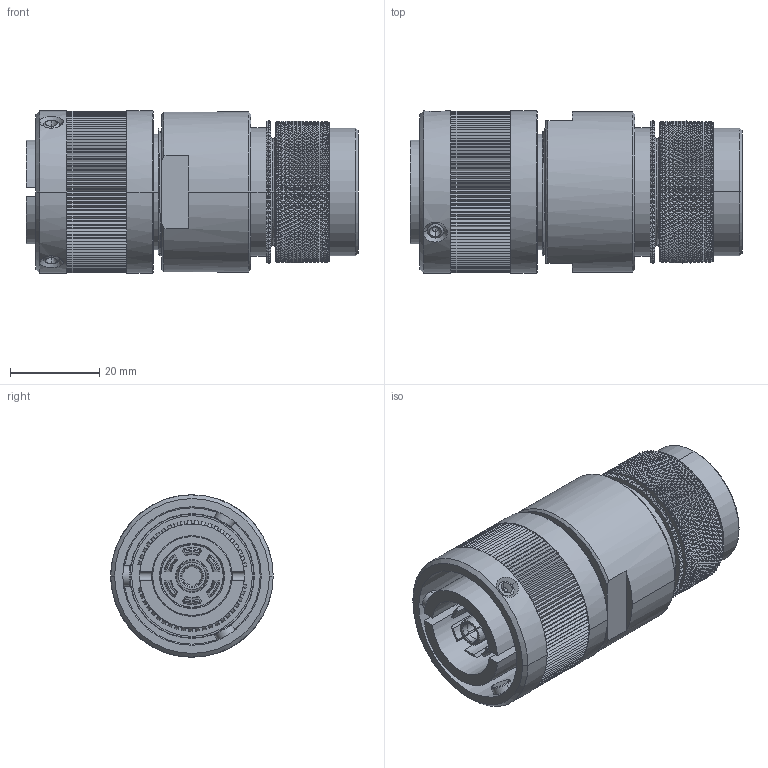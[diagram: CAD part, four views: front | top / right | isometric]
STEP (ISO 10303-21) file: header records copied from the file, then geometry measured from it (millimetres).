
FILE_DESCRIPTION((''),'2;1');
FILE_NAME('GCE3106E18M50S-B-T14_SW0001','2023-06-13T09:28:21',('paultorloting'),('NET AG system integration'),'CREO PARAMETRIC BY PTC INC, 2021404','CREO PARAMETRIC BY PTC INC, 2021404','');
FILE_SCHEMA(('AUTOMOTIVE_DESIGN { 1 0 10303 214 1 1 1 1 }'));
Products named in the file (1): GCE3106E18M50S-B-T14_SW0001
Bounding box: 74.6 x 36.5 x 36.5 mm (x, y, z)
Volume: 54053 mm3; surface area: 23698.9 mm2
Topology: 1 solids, 2 shells, 8311 faces, 16052 edges, 7691 vertices
Faces by surface type: bspline 6095, plane 1898, cylinder 180, cone 86, torus 52
Entity records: 312451 total; most frequent: CARTESIAN_POINT 180862, ORIENTED_EDGE 32092, EDGE_CURVE 16046, B_SPLINE_CURVE_WITH_KNOTS 10759, DIRECTION 10117, EDGE_LOOP 8453, FACE_OUTER_BOUND 8311, ADVANCED_FACE 8311
